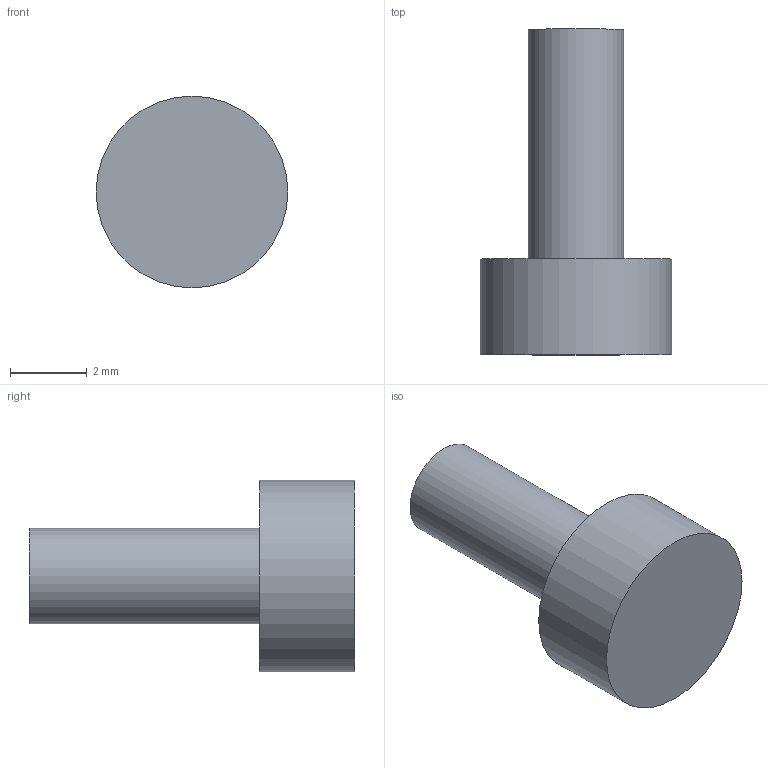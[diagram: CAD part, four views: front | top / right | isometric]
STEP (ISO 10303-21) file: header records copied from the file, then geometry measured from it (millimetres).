
FILE_DESCRIPTION(('Open CASCADE Model'),'2;1');
FILE_NAME('Open CASCADE Shape Model','2026-11-05T02:23:55',('Author'),( 'Open CASCADE'),'Open CASCADE STEP processor 7.8','Open CASCADE 7.8' ,'Unknown');
FILE_SCHEMA(('AUTOMOTIVE_DESIGN { 1 0 10303 214 1 1 1 1 }'));
Length unit declared in the file: millimetre
Products named in the file (1): Open CASCADE STEP translator 7.8 21
Bounding box: 5 x 8.5 x 5 mm (x, y, z)
Volume: 78.5 mm3; surface area: 125.7 mm2
Topology: 1 solids, 1 shells, 5 faces, 6 edges, 4 vertices
Faces by surface type: plane 3, cylinder 2
Full cylindrical faces by diameter (mm): 2.5 x1, 5 x1
Entity records: 204 total; most frequent: CARTESIAN_POINT 52, DIRECTION 30, ORIENTED_EDGE 12, PCURVE 12, DEFINITIONAL_REPRESENTATION 12, AXIS2_PLACEMENT_3D 10, LINE 10, VECTOR 10
